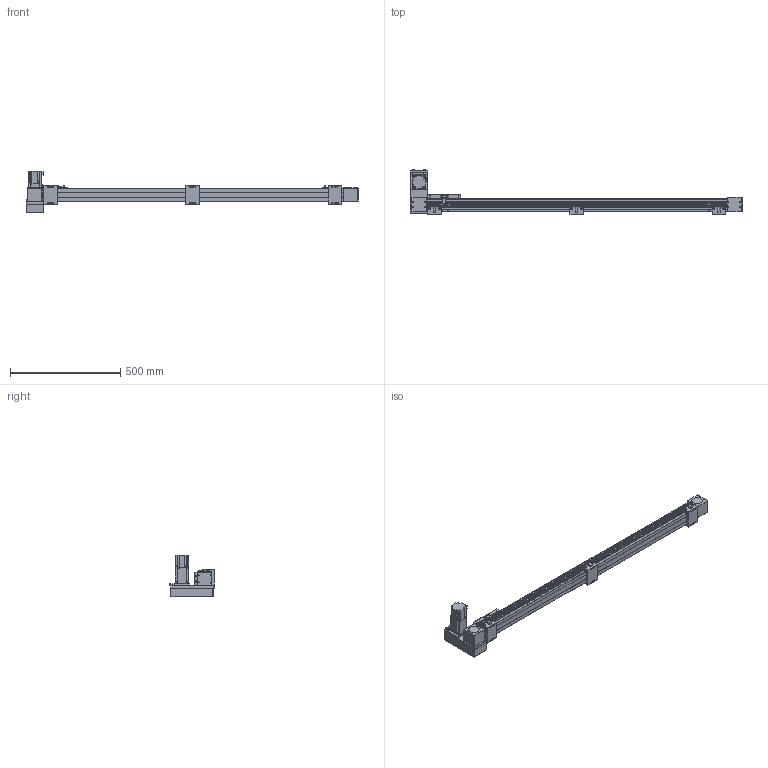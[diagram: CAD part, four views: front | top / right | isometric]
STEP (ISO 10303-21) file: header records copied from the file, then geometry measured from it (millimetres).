
FILE_DESCRIPTION(/* description */ ('STEP AP214'),/* implementation_level */ '2;1');
FILE_NAME(/* name */ 'SK60-P13-S1200-LU-T40-C1-N(0)',/* time_stamp */ '2023-04-06T04:47:51+02:00',/* author */ ('License CC BY-ND 4.0'),/* organization */ ('CADENAS'),/* preprocessor_version */ 'ST-DEVELOPER v19.3',/* originating_system */ 'PARTsolutions',/* authorisation */ ' ');
FILE_SCHEMA (('AUTOMOTIVE_DESIGN {1 0 10303 214 3 1 1}'));
Length unit declared in the file: millimetre
Products named in the file (10): SK60-P13-S1200-LU-T40-C1-N(0); PSC140-sensor; SK60-S450_seat; SK60-S450-BL-C1_slider; SK60_body3; SK60_body6; SK60-BL_body2; T40-p1; SK60-LU_fb; SK60-S1200-LU-C1_body
Assembly tree (17 placements, depth 2):
  SK60-P13-S1200-LU-T40-C1-N(0)
    PSC140-sensor  x3
    SK60-S450_seat  x3
    SK60-S450-BL-C1_slider
    SK60_body3  x3
    SK60_body6  x2
    SK60-BL_body2  x2
    T40-p1
    SK60-LU_fb
    SK60-S1200-LU-C1_body
Bounding box: 1505.5 x 201 x 189.7 mm (x, y, z)
Volume: 6317707 mm3; surface area: 783834.3 mm2
Topology: 17 solids, 17 shells, 854 faces, 2146 edges, 1413 vertices
Faces by surface type: plane 548, cylinder 278, cone 26, torus 2
Full cylindrical faces by diameter (mm): 2.8 x3, 3.3 x4, 4 x2, 4.5 x30, 4.6 x3, 4.917 x20, 5 x6, 5.478 x4, 5.5 x23, 6.5 x6, 7 x2, 8 x4, 8.5 x4, 9.988 x4, 10 x12, 14 x1, 47 x3, 50 x2
Entity records: 18663 total; most frequent: DIRECTION 3186, CARTESIAN_POINT 3151, ORIENTED_EDGE 2940, EDGE_CURVE 1470, AXIS2_PLACEMENT_3D 1069, LINE 1048, VECTOR 1048, VERTEX_POINT 1034
